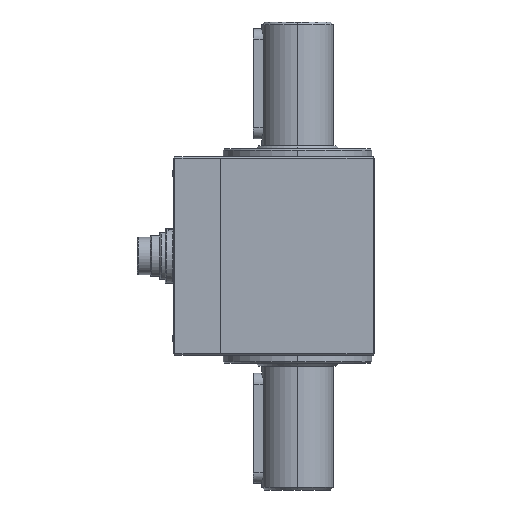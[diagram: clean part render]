
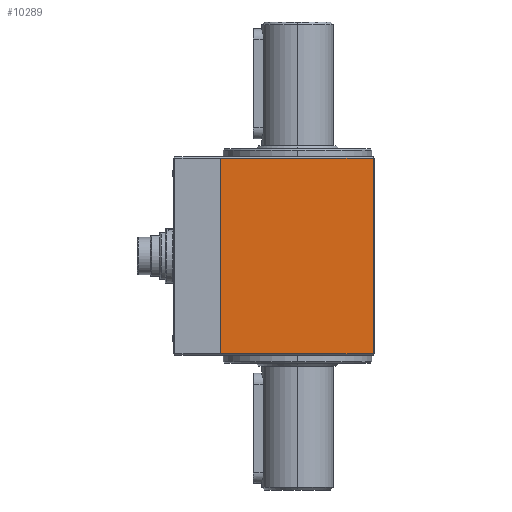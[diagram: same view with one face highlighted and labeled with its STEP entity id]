
A CAD part, left-side view. The second image highlights one B-rep face of the part: STEP entity #10289.
In plain terms, the highlighted planar face has unit normal (-1, 0, 0).
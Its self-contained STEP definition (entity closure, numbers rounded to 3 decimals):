
#87 = EDGE_CURVE ( 'NONE', #8975, #14944, #3438, .T. ) ;
#909 = DIRECTION ( 'NONE',  ( 0., -1., 0. ) ) ;
#917 = VECTOR ( 'NONE', #3120, 1000. ) ;
#1151 = DIRECTION ( 'NONE',  ( 0., 0., 1. ) ) ;
#1624 = DIRECTION ( 'NONE',  ( 0., 0., 1. ) ) ;
#2977 = ORIENTED_EDGE ( 'NONE', *, *, #5838, .T. ) ;
#3120 = DIRECTION ( 'NONE',  ( 0., 1., 0. ) ) ;
#3306 = CARTESIAN_POINT ( 'NONE',  ( -28., 28., -78. ) ) ;
#3438 = LINE ( 'NONE', #3306, #3845 ) ;
#3482 = VERTEX_POINT ( 'NONE', #8824 ) ;
#3781 = CARTESIAN_POINT ( 'NONE',  ( -28., -27.5, -78. ) ) ;
#3845 = VECTOR ( 'NONE', #1624, 1000. ) ;
#4147 = ORIENTED_EDGE ( 'NONE', *, *, #7410, .T. ) ;
#5006 = VECTOR ( 'NONE', #909, 1000. ) ;
#5838 = EDGE_CURVE ( 'NONE', #7903, #14944, #7338, .T. ) ;
#6321 = CARTESIAN_POINT ( 'NONE',  ( -28., -27.5, -3.5 ) ) ;
#6356 = LINE ( 'NONE', #3781, #9546 ) ;
#7338 = LINE ( 'NONE', #11538, #917 ) ;
#7410 = EDGE_CURVE ( 'NONE', #3482, #7903, #6356, .T. ) ;
#7903 = VERTEX_POINT ( 'NONE', #6321 ) ;
#8121 = CARTESIAN_POINT ( 'NONE',  ( -28., -28., -74.5 ) ) ;
#8369 = DIRECTION ( 'NONE',  ( -1., 0., 0. ) ) ;
#8824 = CARTESIAN_POINT ( 'NONE',  ( -28., -27.5, -74.5 ) ) ;
#8975 = VERTEX_POINT ( 'NONE', #10915 ) ;
#9546 = VECTOR ( 'NONE', #12098, 1000. ) ;
#10289 = ADVANCED_FACE ( 'NONE', ( #11470 ), #10713, .T. ) ;
#10713 = PLANE ( 'NONE',  #11205 ) ;
#10915 = CARTESIAN_POINT ( 'NONE',  ( -28., 28., -74.5 ) ) ;
#11151 = ORIENTED_EDGE ( 'NONE', *, *, #15154, .T. ) ;
#11204 = CARTESIAN_POINT ( 'NONE',  ( -28., 28., -3.5 ) ) ;
#11205 = AXIS2_PLACEMENT_3D ( 'NONE', #15535, #8369, #1151 ) ;
#11376 = LINE ( 'NONE', #8121, #5006 ) ;
#11470 = FACE_OUTER_BOUND ( 'NONE', #11497, .T. ) ;
#11497 = EDGE_LOOP ( 'NONE', ( #11151, #4147, #2977, #13692 ) ) ;
#11538 = CARTESIAN_POINT ( 'NONE',  ( -28., -28., -3.5 ) ) ;
#12098 = DIRECTION ( 'NONE',  ( 0., 0., 1. ) ) ;
#13692 = ORIENTED_EDGE ( 'NONE', *, *, #87, .F. ) ;
#14944 = VERTEX_POINT ( 'NONE', #11204 ) ;
#15154 = EDGE_CURVE ( 'NONE', #8975, #3482, #11376, .T. ) ;
#15535 = CARTESIAN_POINT ( 'NONE',  ( -28., -28., -78. ) ) ;
